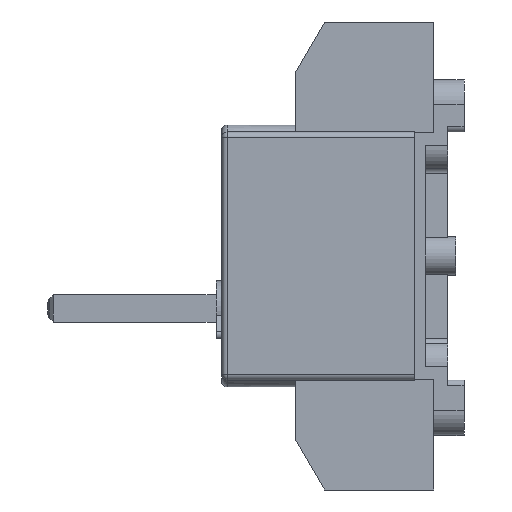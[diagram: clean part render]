
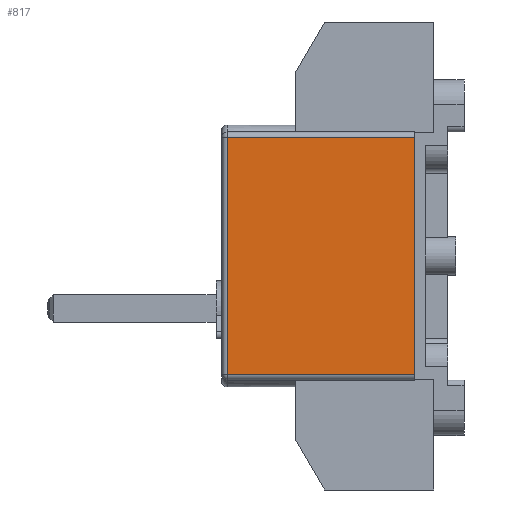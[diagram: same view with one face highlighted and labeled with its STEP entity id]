
A CAD part, left-side view. The second image highlights one B-rep face of the part: STEP entity #817.
In plain terms, the highlighted planar face has unit normal (-1, 0, 0).
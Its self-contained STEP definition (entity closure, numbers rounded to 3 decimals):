
#817=ADVANCED_FACE('',(#1205),#994,.F.);
#994=PLANE('',#5905);
#1205=FACE_OUTER_BOUND('',#1557,.T.);
#1557=EDGE_LOOP('',(#2928,#2929,#2930,#2931));
#2928=ORIENTED_EDGE('',*,*,#4349,.F.);
#2929=ORIENTED_EDGE('',*,*,#4336,.T.);
#2930=ORIENTED_EDGE('',*,*,#4350,.T.);
#2931=ORIENTED_EDGE('',*,*,#3660,.T.);
#3137=VERTEX_POINT('',#7588);
#3138=VERTEX_POINT('',#7590);
#3596=VERTEX_POINT('',#8988);
#3600=VERTEX_POINT('',#9004);
#3660=EDGE_CURVE('',#3138,#3137,#4404,.T.);
#4336=EDGE_CURVE('',#3596,#3600,#4862,.T.);
#4349=EDGE_CURVE('',#3596,#3137,#4869,.T.);
#4350=EDGE_CURVE('',#3600,#3138,#4870,.T.);
#4404=LINE('',#7589,#4924);
#4862=LINE('',#9005,#5382);
#4869=LINE('',#9042,#5389);
#4870=LINE('',#9044,#5390);
#4924=VECTOR('',#6033,1.);
#5382=VECTOR('',#7401,1.);
#5389=VECTOR('',#7426,1.);
#5390=VECTOR('',#7429,1.);
#5905=AXIS2_PLACEMENT_3D('',#9045,#7430,#7431);
#6033=DIRECTION('',(0.,0.,1.));
#7401=DIRECTION('',(0.,0.,-1.));
#7426=DIRECTION('',(0.,-1.,0.));
#7429=DIRECTION('',(0.,-1.,0.));
#7430=DIRECTION('',(1.,0.,0.));
#7431=DIRECTION('',(0.,0.,-1.));
#7588=CARTESIAN_POINT('',(-41.,0.,43.));
#7589=CARTESIAN_POINT('',(-41.,0.,-43.));
#7590=CARTESIAN_POINT('',(-41.,0.,-43.));
#8988=CARTESIAN_POINT('',(-41.,68.,43.));
#9004=CARTESIAN_POINT('',(-41.,68.,-43.));
#9005=CARTESIAN_POINT('',(-41.,68.,-43.));
#9042=CARTESIAN_POINT('',(-41.,35.,43.));
#9044=CARTESIAN_POINT('',(-41.,35.,-43.));
#9045=CARTESIAN_POINT('',(-41.,35.,-43.));
